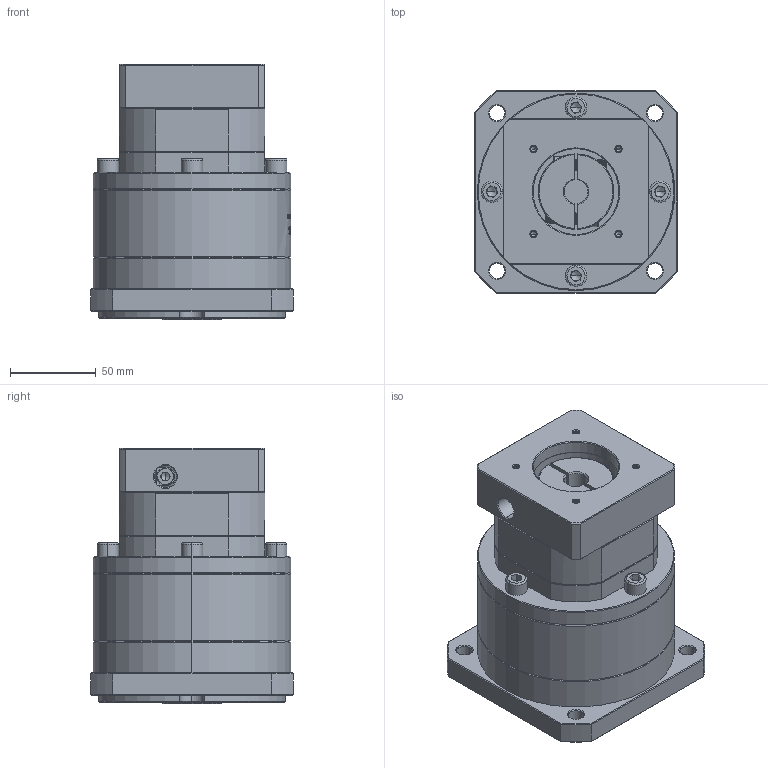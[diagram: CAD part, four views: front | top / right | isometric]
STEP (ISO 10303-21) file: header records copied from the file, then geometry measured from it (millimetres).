
FILE_DESCRIPTION (( 'STEP AP214' ), '1' );
FILE_NAME ('ZF120A-K25-L2-14-50-70-M4.step', '2023-03-07T15:03:10', ( '' ), ( 'Microsoft' ), 'SwSTEP 2.0', 'SolidWorks 2016', '' );
FILE_SCHEMA (( 'AUTOMOTIVE_DESIGN' ));
Length unit declared in the file: millimetre
Products named in the file (1): ZF120A-K25-L2-14-50-70-M4
Bounding box: 118 x 118 x 149 mm (x, y, z)
Volume: 1251208.6 mm3; surface area: 124165 mm2
Topology: 5 solids, 6 shells, 1878 faces, 4946 edges, 3160 vertices
Faces by surface type: plane 876, cylinder 361, bspline 327, cone 314
Entity records: 97288 total; most frequent: CARTESIAN_POINT 33910, ORIENTED_EDGE 9836, DIRECTION 7573, EDGE_CURVE 4918, VERTEX_POINT 3160, LINE 2679, VECTOR 2679, AXIS2_PLACEMENT_3D 2447
